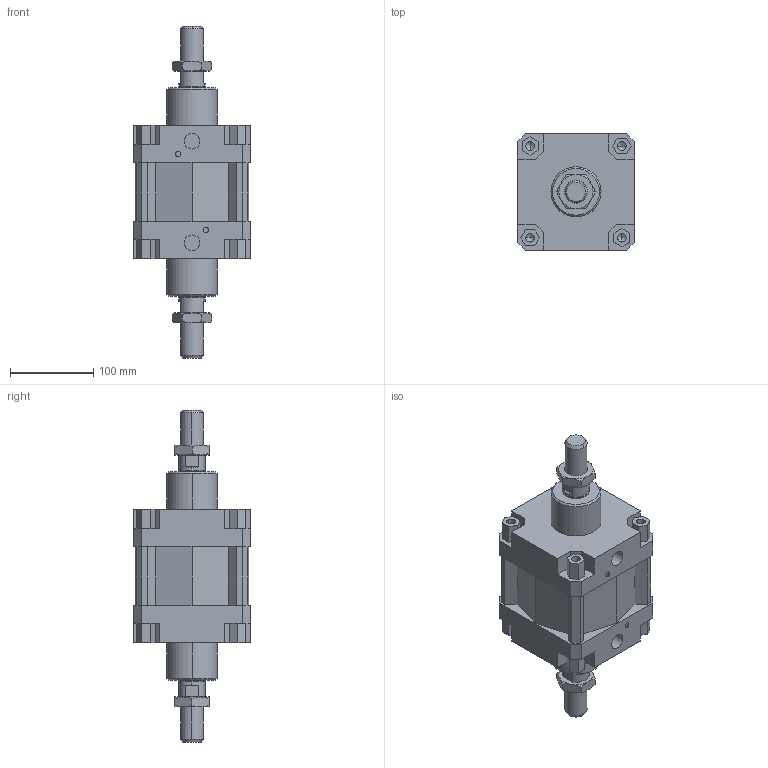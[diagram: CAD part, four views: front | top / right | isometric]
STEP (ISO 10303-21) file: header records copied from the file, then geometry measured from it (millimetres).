
FILE_DESCRIPTION((''),'2;1');
FILE_NAME('I:\DOC-EDP\Lib-3d\1319\CILINDRI\Ø125\1319_125_0000_02.stp','2003-04-08T12:18:23',('maffial1'),(''),'Autodesk Inventor (R) 6.0','Autodesk Inventor (R) 6.0','');
FILE_SCHEMA(('AUTOMOTIVE_DESIGN { 1 0 10303 214 1 1 1 1 }'));
Length unit declared in the file: millimetre
Products named in the file (4): 1319_125_0000_02; CIM04_125_0; CIM03_125_0; 1320_125_18F
Assembly tree (4 placements, depth 2):
  1319_125_0000_02
    CIM04_125_0
    CIM03_125_0
    1320_125_18F  x2
Bounding box: 140 x 140 x 398 mm (x, y, z)
Volume: 3099251.5 mm3; surface area: 242331.1 mm2
Topology: 4 solids, 4 shells, 290 faces, 724 edges, 452 vertices
Faces by surface type: plane 130, bspline 72, cone 60, cylinder 28
Entity records: 8094 total; most frequent: CARTESIAN_POINT 1972, ORIENTED_EDGE 1288, DIRECTION 1160, EDGE_CURVE 644, VECTOR 480, LINE 480, VERTEX_POINT 416, AXIS2_PLACEMENT_3D 340
